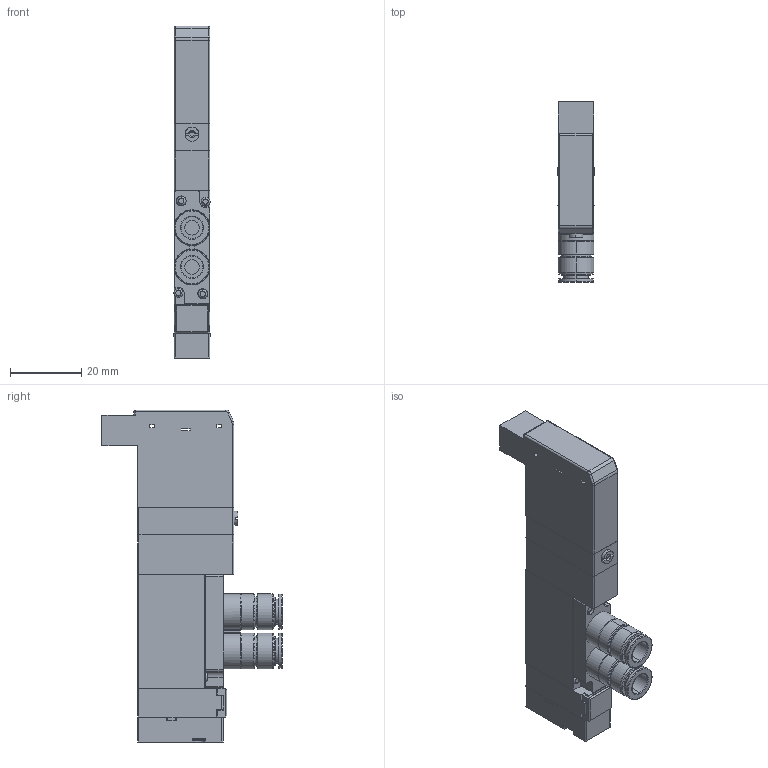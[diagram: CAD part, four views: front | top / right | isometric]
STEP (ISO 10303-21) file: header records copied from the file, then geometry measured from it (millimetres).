
FILE_DESCRIPTION( (''), '2;1');
FILE_NAME ('CVICAD02.13484.F10T1-FJ_5767.stp','2020-09-01T14:10:09',(''),(''),'spGate 12.6.6','','');
FILE_SCHEMA (('AUTOMOTIVE_DESIGN'));
Length unit declared in the file: millimetre
Products named in the file (8): Assembly; F10_Adptor; F_3PortBody; F10_Cap; F10_SwitchBlock1; F_Connector-L; F10T_Body; F10_Port-FJ
Assembly tree (7 placements, depth 2):
  Assembly
    F10_Adptor
    F_3PortBody
    F10_Cap
    F10_SwitchBlock1
    F_Connector-L
    F10T_Body
    F10_Port-FJ
Bounding box: 10.2 x 50.5 x 93 mm (x, y, z)
Volume: 26161.9 mm3; surface area: 12750.7 mm2
Topology: 7 solids, 7 shells, 361 faces, 884 edges, 562 vertices
Faces by surface type: plane 184, cylinder 113, bspline 62, sphere 2
Entity records: 18624 total; most frequent: CARTESIAN_POINT 2897, ORIENTED_EDGE 1764, DIRECTION 1718, COLOUR_RGB 1250, PRESENTATION_STYLE_ASSIGNMENT 1250, STYLED_ITEM 1250, EDGE_CURVE 882, DRAUGHTING_PRE_DEFINED_CURVE_FONT 882
